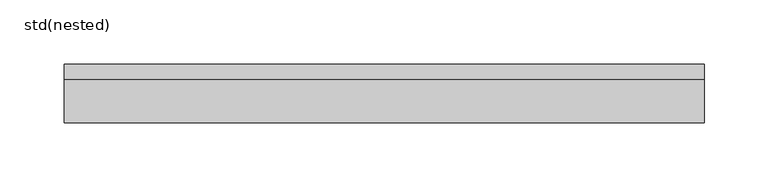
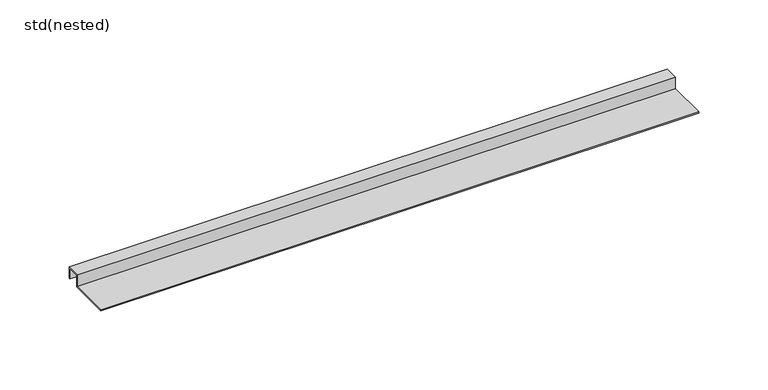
"""IFC4 building model written with IfcOpenShell, lengths in millimetres: sanitary terminal geometry, ZZZ_do not use_PF_UN_ShowerStep Black_ACO : std(nested)."""

from ifc_helpers import new_model, si_unit, origin, place, context, project, spatial, faceted_brep, source, transform, mapped, element, save


def std_nested_2f341021(model_context):
    return source(origin(), model_context, "Body", "Brep", [
        faceted_brep([(0.0, -1.0, -10.0), (0.0, -1.0, -1.0), (0.0, -11.0004219, -1.0), (0.0, -11.0004219, -11.0), (0.0, -46.0004219, -11.0), (0.0, -46.0004219, -10.0), (0.0, -12.0076915, -10.0), (0.0, -12.0076915, 0.0), (0.0, 0.0, 0.0), (0.0, 0.0, -10.0), (500.0, 0.0, -20.1010101), (500.0, -1.0, -20.1010101), (500.0, 0.0, 0.0), (500.0, -12.0076915, 0.0), (500.0, -12.0076915, -10.0), (500.0, -46.0004219, -10.0), (500.0, -46.0004219, -11.0), (500.0, -11.0004219, -11.0), (500.0, -11.0004219, -1.0), (500.0, -1.0, -1.0)], [[[0, 1, 2, 3, 4, 5, 6, 7, 8, 9]], [[0, 9, 10, 11]], [[9, 8, 12, 10]], [[8, 7, 13, 12]], [[7, 6, 14, 13]], [[6, 5, 15, 14]], [[5, 4, 16, 15]], [[4, 3, 17, 16]], [[3, 2, 18, 17]], [[2, 1, 19, 18]], [[1, 0, 11, 19]], [[11, 10, 12, 13, 14, 15, 16, 17, 18, 19]]]),
    ])


if __name__ == "__main__":
    model = new_model("IFC4")
    model_context = context("Model", 3, world=origin())
    ifc_project = project(units=[si_unit("LENGTHUNIT", "METRE", prefix="MILLI")], contexts=[model_context])
    site = spatial("IfcSite", under=ifc_project)
    building = spatial("IfcBuilding", under=site)
    placement = place(None, origin())
    std_nested_shape = std_nested_2f341021(model_context)
    element("IfcSanitaryTerminal", 1, ObjectType="ZZZ_do not use_PF_UN_ShowerStep Black_ACO : std(nested)", at=placement, inside=building, context=model_context, shape_type="MappedRepresentation", body=[
        mapped(std_nested_shape, transform((0.0, 0.0, 0.0), x_axis=(1.0, 0.0, 0.0), y_axis=(0.0, 1.0, 0.0), z_axis=(0.0, 0.0, 1.0))),
    ])
    save(model, "model.ifc")
